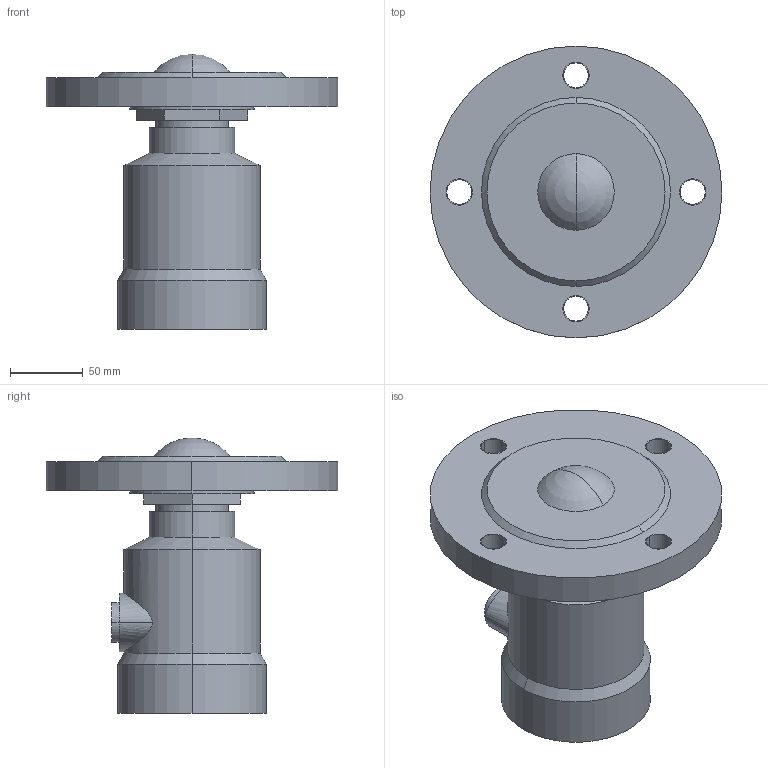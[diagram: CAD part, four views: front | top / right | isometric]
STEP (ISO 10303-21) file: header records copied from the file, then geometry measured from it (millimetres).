
FILE_DESCRIPTION((''),'2;1');
FILE_NAME('804','2025-12-26T15:00:59',('28740194'),(''),'CREO PARAMETRIC BY PTC INC, 2024063','CREO PARAMETRIC BY PTC INC, 2024063','');
FILE_SCHEMA(('CONFIG_CONTROL_DESIGN'));
Length unit declared in the file: millimetre
Products named in the file (1): 804
Bounding box: 200 x 200 x 189.17 mm (x, y, z)
Volume: 1644650.1 mm3; surface area: 138862.6 mm2
Topology: 1 solids, 5 shells, 380 faces, 1045 edges, 693 vertices
Faces by surface type: plane 336, cylinder 34, cone 6, extrusion 2, sphere 2
Entity records: 12050 total; most frequent: CARTESIAN_POINT 2251, ORIENTED_EDGE 2070, DIRECTION 1879, EDGE_CURVE 1043, VECTOR 965, LINE 963, VERTEX_POINT 693, AXIS2_PLACEMENT_3D 457
